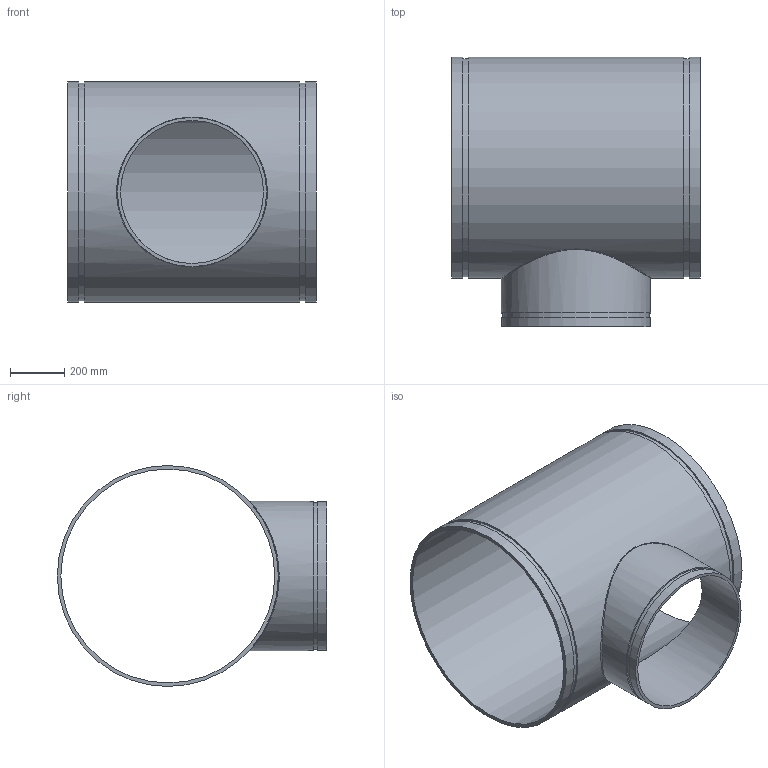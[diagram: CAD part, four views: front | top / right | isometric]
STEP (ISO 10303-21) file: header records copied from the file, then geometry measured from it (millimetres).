
FILE_DESCRIPTION(/* description */ ('VIC REDUCING TEE No 25-C','CAx-IF Rec.Pracs.---Representation and Presentation of Product Manufacturing Information (PMI)---4.0---2014-10-13'),/* implementation_level */ '2;1');
FILE_NAME(/* name */ 'C:\Users\Vjadhav\AppData\Roaming\Autodesk\ApplicationPlugins\Back Up\Victaulic_AWWA_Tee Reducing_No 25-C (DRG)\Victaulic_AWWA_Tee Reducing_No 25-C (DRG)_30.0x20.0 (750x500).stp',/* time_stamp */ '2020-08-18T18:19:23+06:00',/* author */ ('CORINNE GRAY'),/* organization */ ('Victaulic'),/* preprocessor_version */ 'ST-DEVELOPER v17.2',/* originating_system */ 'Autodesk Inventor 2019',/* authorisation */ '');
FILE_SCHEMA (('AP242_MANAGED_MODEL_BASED_3D_ENGINEERING_MIM_LF { 1 0 10303 442 1 1 4 }'));
Length unit declared in the file: inch
Products named in the file (1): 25C-30.0x20.0
Bounding box: 914.4 x 990.6 x 812.8 mm (x, y, z)
Volume: 30461377.1 mm3; surface area: 5056453.4 mm2
Topology: 1 solids, 1 shells, 20 faces, 44 edges, 33 vertices
Faces by surface type: cylinder 10, plane 9, bspline 1
Full cylindrical faces by diameter (mm): 525.78 x1, 538.963 x1, 548.64 x2, 786.892 x1, 801.37 x2, 812.8 x3
Entity records: 1136 total; most frequent: CARTESIAN_POINT 512, DIRECTION 135, ORIENTED_EDGE 90, AXIS2_PLACEMENT_3D 62, EDGE_CURVE 45, VERTEX_POINT 34, EDGE_LOOP 31, CIRCLE 29
